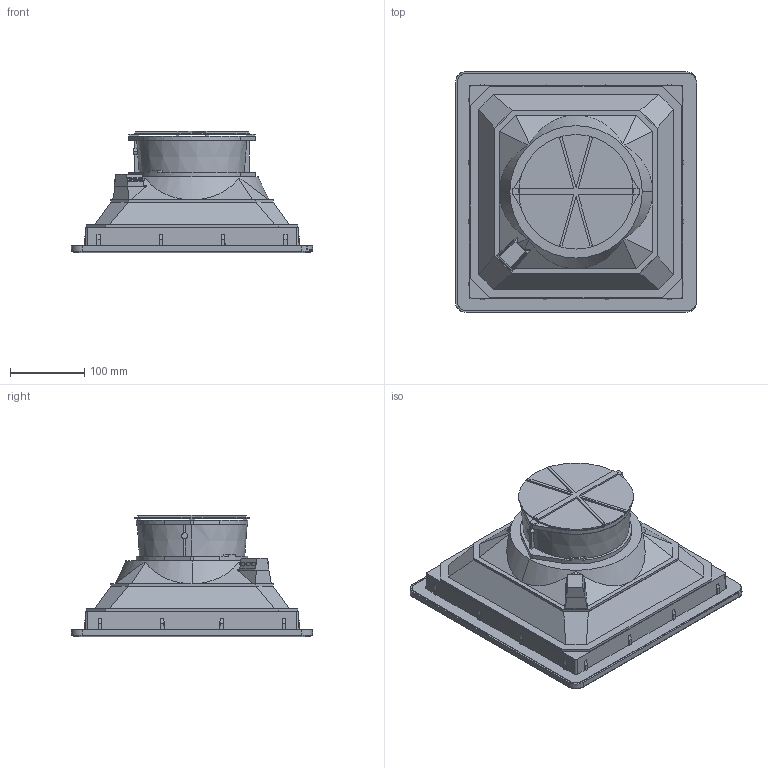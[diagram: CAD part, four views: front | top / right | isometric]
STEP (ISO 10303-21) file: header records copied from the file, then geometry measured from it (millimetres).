
FILE_DESCRIPTION (( 'STEP AP214' ), '1' );
FILE_NAME ('FF20PAxxxyF.STEP', '2023-10-09T13:07:46', ( '' ), ( '' ), 'SwSTEP 2.0', 'SolidWorks 2022', '' );
FILE_SCHEMA (( 'AUTOMOTIVE_DESIGN' ));
Length unit declared in the file: millimetre
Products named in the file (9): 040013_LK_980-01-3_morsettiera semplificata; A17T_semplificata; P20FPF-7035_semplificata; DT-00230DSI_Semplificato; DT-04082DSI_mostrina semplificata; DT-02106DSI_P15*FPF-nnnn semplificata; DT-02363DSI_griglia semplificata; DT-00228DSI_Semplificata; FF20PAxxxyF
Assembly tree (8 placements, depth 2):
  FF20PAxxxyF
    DT-00228DSI_Semplificata
    DT-00230DSI_Semplificato
    P20FPF-7035_semplificata
    DT-02106DSI_P15*FPF-nnnn semplificata
    A17T_semplificata
    DT-02363DSI_griglia semplificata
    040013_LK_980-01-3_morsettiera semplificata
    DT-04082DSI_mostrina semplificata
Bounding box: 325.06 x 325 x 163.51 mm (x, y, z)
Volume: 7100523.9 mm3; surface area: 918221.2 mm2
Topology: 8 solids, 8 shells, 944 faces, 2839 edges, 1933 vertices
Faces by surface type: plane 812, bspline 76, cylinder 40, cone 12, torus 4
Entity records: 35115 total; most frequent: CARTESIAN_POINT 9599, ORIENTED_EDGE 5678, DIRECTION 4452, EDGE_CURVE 2839, VECTOR 2528, LINE 2528, VERTEX_POINT 1933, EDGE_LOOP 966
